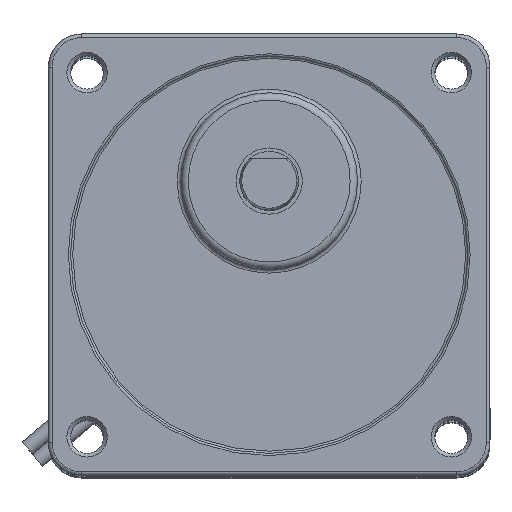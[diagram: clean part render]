
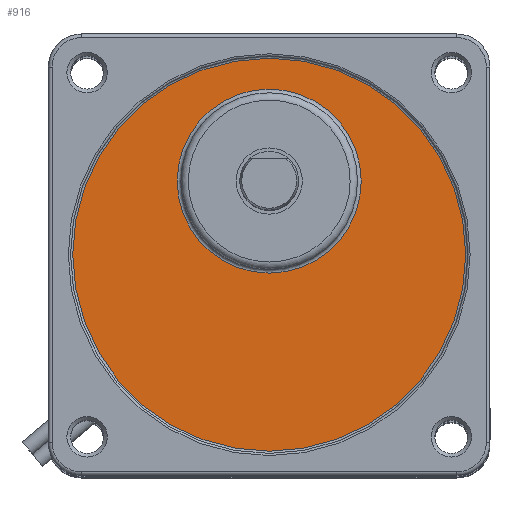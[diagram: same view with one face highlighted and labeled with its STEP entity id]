
A CAD part, top view. The second image highlights one B-rep face of the part: STEP entity #916.
In plain terms, the highlighted planar face has unit normal (0, 0, 1).
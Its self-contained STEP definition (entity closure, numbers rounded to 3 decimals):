
#865=CARTESIAN_POINT('',(47.5,70.,169.7));
#866=VERTEX_POINT('',#865);
#867=CARTESIAN_POINT('',(60.0,70.,169.7));
#868=DIRECTION('',(0.0,0.0,1.0));
#869=DIRECTION('',(1.0,0.0,0.0));
#870=AXIS2_PLACEMENT_3D('',#867,#868,#869);
#871=CIRCLE('',#870,12.5);
#872=EDGE_CURVE('',#866,#866,#871,.T.);
#897=CARTESIAN_POINT('',(60.0,60.,169.7));
#898=DIRECTION('',(0.0,0.0,-1.0));
#899=DIRECTION('',(1.0,0.0,0.0));
#900=AXIS2_PLACEMENT_3D('',#897,#898,#899);
#901=PLANE('',#900);
#902=CARTESIAN_POINT('',(33.301,60.,169.7));
#903=VERTEX_POINT('',#902);
#904=CARTESIAN_POINT('',(60.0,60.,169.7));
#905=DIRECTION('',(0.0,0.0,-1.0));
#906=DIRECTION('',(1.0,0.0,0.0));
#907=AXIS2_PLACEMENT_3D('',#904,#905,#906);
#908=CIRCLE('',#907,26.699);
#909=EDGE_CURVE('',#903,#903,#908,.T.);
#910=ORIENTED_EDGE('',*,*,#909,.F.);
#911=EDGE_LOOP('',(#910));
#912=FACE_OUTER_BOUND('',#911,.T.);
#913=ORIENTED_EDGE('',*,*,#872,.F.);
#914=EDGE_LOOP('',(#913));
#915=FACE_BOUND('',#914,.T.);
#916=ADVANCED_FACE('',(#912,#915),#901,.F.);
